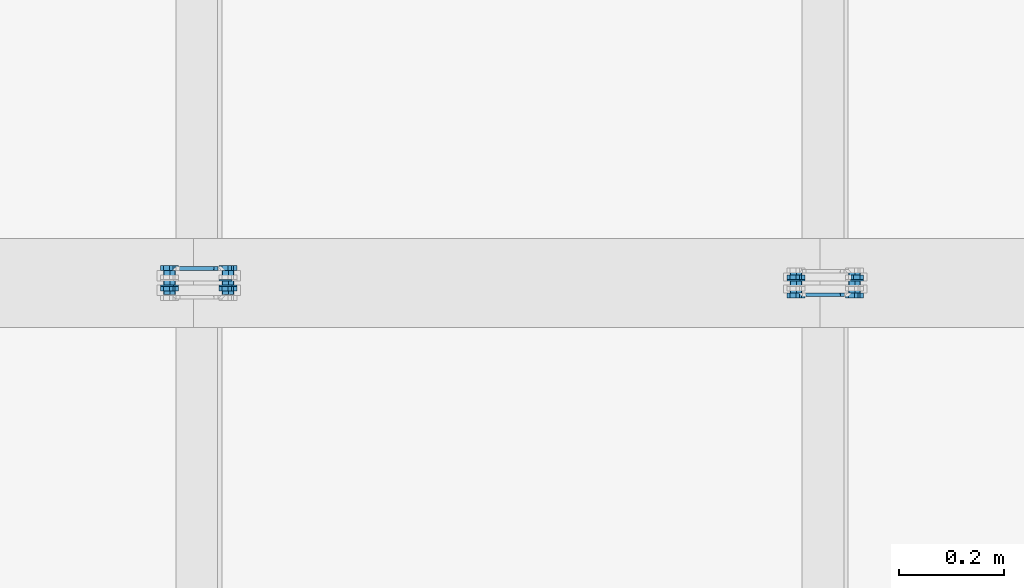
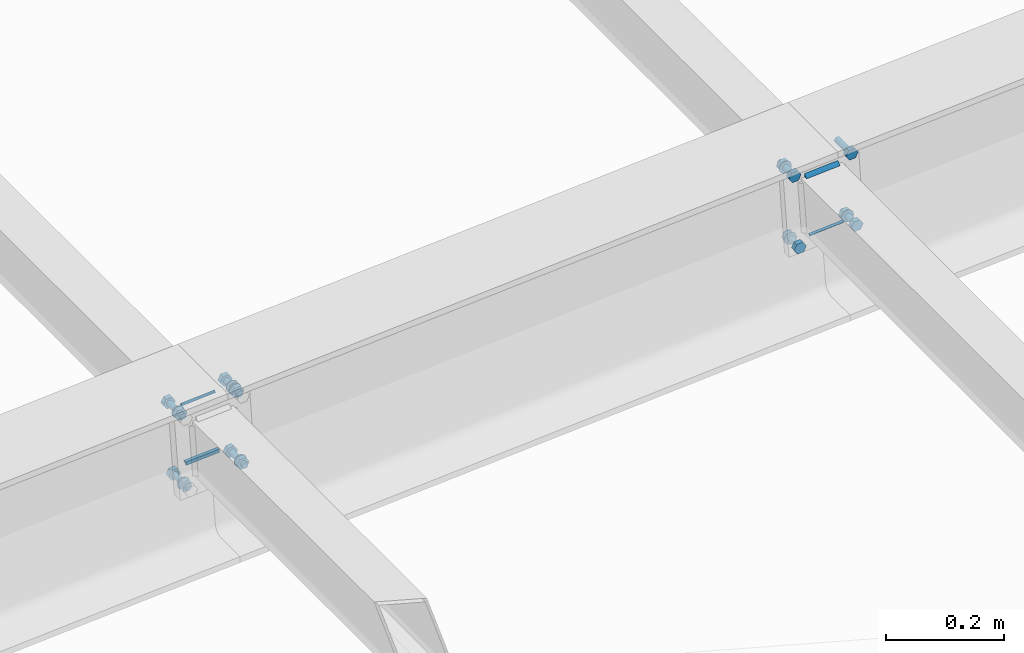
# One storey, part 39 of 72: 31 mechanical fasteners, 8 fasteners.
"""IFC4 building model written with IfcOpenShell, lengths in metres."""

from ifc_helpers import new_model, si_unit, frame, origin_with_axes, place, context, project, spatial, polyline, outline, extrude, type_object, element, save


model = new_model("IFC4")

# Units and contexts
model_context = context("Model", 3, precision=1e-05, world=origin_with_axes())
ifc_project = project(units=[si_unit("LENGTHUNIT", "METRE"), si_unit("AREAUNIT", "SQUARE_METRE"), si_unit("VOLUMEUNIT", "CUBIC_METRE"), si_unit("MASSUNIT", "GRAM", prefix="KILO"), si_unit("TIMEUNIT", "SECOND"), si_unit("PLANEANGLEUNIT", "RADIAN"), si_unit("SOLIDANGLEUNIT", "STERADIAN"), si_unit("THERMODYNAMICTEMPERATUREUNIT", "DEGREE_CELSIUS")], contexts=[model_context])

# Site, building, storey
placement_1 = place(None, origin_with_axes())
site = spatial("IfcSite", under=ifc_project, at=placement_1, Name="Italia", CompositionType="ELEMENT")
building = spatial("IfcBuilding", under=site, at=placement_1, Name="Pensilina", CompositionType="ELEMENT")
storey = spatial("IfcBuildingStorey", under=building, at=placement_1, Name="Storey 0", CompositionType="ELEMENT", Elevation=0.0)

# Mechanical fastener
mechanical_fastener_type_1 = type_object("IfcMechanicalFastenerType", Name="Collegamento 0302_0301", PredefinedType="BOLT")
placement_2 = place(placement_1, origin_with_axes())
mechanical_fastener_1_placement = place(placement_2, origin_with_axes())
element("IfcMechanicalFastener", 1, at=mechanical_fastener_1_placement, inside=storey, type_object=mechanical_fastener_type_1, Name="Collegamento 0302_0301", NominalDiameter=0.024, context=model_context, shape_type="SweptSolid", body=[
    extrude(outline(polyline([(0.0, 0.0, 0.0), (-0.000408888, -0.00310588, 0.0), (-0.00160789, -0.00600004, 0.0), (-0.00351477, -0.00848532, 0.0), (-0.00600004, -0.0103922, 0.0), (-0.00889421, -0.0115912, 0.0), (-0.0120001, -0.0120001, 0.0), (-0.015106, -0.0115912, 0.0), (-0.0180001, -0.0103922, 0.0), (-0.0204854, -0.00848532, 0.0), (-0.0223923, -0.00600004, 0.0), (-0.0235913, -0.00310588, 0.0), (-0.0240002, 0.0, 0.0), (-0.0235913, 0.00310588, 0.0), (-0.0223923, 0.00600004, 0.0), (-0.0204854, 0.00848532, 0.0), (-0.0180001, 0.0103922, 0.0), (-0.015106, 0.0115912, 0.0), (-0.0120001, 0.0120001, 0.0), (-0.00889421, 0.0115912, 0.0), (-0.00600004, 0.0103922, 0.0), (-0.00351477, 0.00848532, 0.0), (-0.00160789, 0.00600004, 0.0), (-0.000408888, 0.00310588, 0.0), (0.0, 0.0, 0.0)])), frame((2.28103, 5.286, 3.85843), z_axis=(0.0, -1.0, 0.0), x_axis=(1.0, 0.0, 0.0)), (0.0, 0.0, 1.0), 0.00200033),
])

# Fasteners
fastener_type_1 = type_object("IfcFastenerType", Name="Collegamento 0302_0303", PredefinedType="WELD")
fastener_1_placement = place(placement_2, origin_with_axes())
element("IfcFastener", 2, at=fastener_1_placement, inside=storey, type_object=fastener_type_1, Name="Collegamento 0302_0303", context=model_context, shape_type="SweptSolid", body=[
    extrude(outline(polyline([(0.0, 0.0, 0.0), (0.00717354, -0.00695801, 0.0), (0.0, -0.00695801, 0.0), (0.0, 0.0, 0.0)])), frame((2.18079, 5.30395, 3.84336), z_axis=(0.997731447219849, 0.0, 0.067319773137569), x_axis=(0.0, 1.0, 0.0)), (0.0, 0.0, 1.0), 0.0661001),
])
fastener_type_2 = type_object("IfcFastenerType", Name="Collegamento 0302_0303", PredefinedType="WELD")
fastener_2_placement = place(placement_2, origin_with_axes())
element("IfcFastener", 3, at=fastener_2_placement, inside=storey, type_object=fastener_type_2, Name="Collegamento 0302_0303", context=model_context, shape_type="SweptSolid", body=[
    extrude(outline(polyline([(0.0, 0.0, 0.0), (-0.00717354, 0.00695801, 0.0), (0.0, 0.00695801, 0.0), (0.0, 0.0, 0.0)])), frame((2.25575, 5.30395, 3.7143), z_axis=(-0.997731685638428, 0.0, -0.067316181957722), x_axis=(0.0, -1.0, 0.0)), (0.0, 0.0, 1.0), 0.0661001),
])
fastener_type_3 = type_object("IfcFastenerType", Name="Collegamento 0302_0303", PredefinedType="WELD")
fastener_3_placement = place(placement_2, origin_with_axes())
element("IfcFastener", 4, at=fastener_3_placement, inside=storey, type_object=fastener_type_3, Name="Collegamento 0302_0303", context=model_context, shape_type="SweptSolid", body=[
    extrude(outline(polyline([(0.0, 0.0, 0.0), (0.00717354, -0.00695801, 0.0), (0.0, -0.00695801, 0.0), (0.0, 0.0, 0.0)])), frame((2.18079, 5.30395, 3.84336), z_axis=(0.997731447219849, 0.0, 0.067319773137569), x_axis=(0.0, 1.0, 0.0)), (0.0, 0.0, 1.0), 0.0661001),
])
fastener_type_4 = type_object("IfcFastenerType", Name="Collegamento 0302_0303", PredefinedType="WELD")
fastener_4_placement = place(placement_2, origin_with_axes())
element("IfcFastener", 5, at=fastener_4_placement, inside=storey, type_object=fastener_type_4, Name="Collegamento 0302_0303", context=model_context, shape_type="SweptSolid", body=[
    extrude(outline(polyline([(0.0, 0.0, 0.0), (-0.00717354, 0.00695801, 0.0), (0.0, 0.00695801, 0.0), (0.0, 0.0, 0.0)])), frame((2.25575, 5.30395, 3.7143), z_axis=(-0.997731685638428, 0.0, -0.067316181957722), x_axis=(0.0, -1.0, 0.0)), (0.0, 0.0, 1.0), 0.0661001),
])

# Mechanical fasteners
mechanical_fastener_type_2 = type_object("IfcMechanicalFastenerType", Name="Collegamento 0302_0303", PredefinedType="BOLT")
mechanical_fastener_2_placement = place(placement_2, origin_with_axes())
element("IfcMechanicalFastener", 6, at=mechanical_fastener_2_placement, inside=storey, type_object=mechanical_fastener_type_2, Name="Collegamento 0302_0303", NominalDiameter=0.0119999, context=model_context, shape_type="SweptSolid", body=[
    extrude(outline(polyline([(0.0, 0.0, 0.0), (-0.0119729, 0.000807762, 0.0), (-0.0172596, 0.0115805, 0.0), (-0.0105736, 0.0215454, 0.0), (0.00139904, 0.0207374, 0.0), (0.00668597, 0.00996494, 0.0), (0.0, 0.0, 0.0)])), frame((2.27397, 5.304, 3.696), z_axis=(0.0, 1.0, 0.0), x_axis=(-1.0, 0.0, 0.0)), (0.0, 0.0, 1.0), 0.00960016),
])
mechanical_fastener_type_3 = type_object("IfcMechanicalFastenerType", Name="Collegamento 0302_0303", PredefinedType="BOLT")
mechanical_fastener_3_placement = place(placement_2, origin_with_axes())
element("IfcMechanicalFastener", 7, at=mechanical_fastener_3_placement, inside=storey, type_object=mechanical_fastener_type_3, Name="Collegamento 0302_0303", NominalDiameter=0.012, context=model_context, shape_type="SweptSolid", body=[
    extrude(outline(polyline([(0.0, 0.0, 0.0), (-0.000204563, -0.00155282, 0.0), (-0.000803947, -0.00300002, 0.0), (-0.00175738, -0.00424266, 0.0), (-0.00300002, -0.00519609, 0.0), (-0.00444722, -0.00579548, 0.0), (-0.00600004, -0.00600004, 0.0), (-0.00755286, -0.00579548, 0.0), (-0.00900006, -0.00519609, 0.0), (-0.0102427, -0.00424266, 0.0), (-0.0111961, -0.00300002, 0.0), (-0.0117955, -0.00155282, 0.0), (-0.0120001, 0.0, 0.0), (-0.0117955, 0.00155282, 0.0), (-0.0111961, 0.00300002, 0.0), (-0.0102427, 0.00424266, 0.0), (-0.00900006, 0.00519609, 0.0), (-0.00755286, 0.00579548, 0.0), (-0.00600004, 0.00600004, 0.0), (-0.00444722, 0.00579548, 0.0), (-0.00300002, 0.00519609, 0.0), (-0.00175738, 0.00424266, 0.0), (-0.000803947, 0.00300002, 0.0), (-0.000204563, 0.00155282, 0.0), (0.0, 0.0, 0.0)])), frame((2.27326, 5.258, 3.70677), z_axis=(0.0, 1.0, 0.0), x_axis=(-1.0, 0.0, 0.0)), (0.0, 0.0, 1.0), 0.046),
])
mechanical_fastener_type_4 = type_object("IfcMechanicalFastenerType", Name="Collegamento 0302_0303", PredefinedType="BOLT")
mechanical_fastener_4_placement = place(placement_2, origin_with_axes())
element("IfcMechanicalFastener", 8, at=mechanical_fastener_4_placement, inside=storey, type_object=mechanical_fastener_type_4, Name="Collegamento 0302_0303", NominalDiameter=0.0119999, context=model_context, shape_type="SweptSolid", body=[
    extrude(outline(polyline([(0.0, 0.0, 0.0), (-0.0119729, 0.000807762, 0.0), (-0.0172596, 0.0115805, 0.0), (-0.0105736, 0.0215454, 0.0), (0.00139904, 0.0207374, 0.0), (0.00668597, 0.00996494, 0.0), (0.0, 0.0, 0.0)])), frame((2.27397, 5.2644, 3.696), z_axis=(0.0, 1.0, 0.0), x_axis=(-1.0, 0.0, 0.0)), (0.0, 0.0, 1.0), 0.00959969),
])
mechanical_fastener_type_5 = type_object("IfcMechanicalFastenerType", Name="Collegamento 0302_0303", PredefinedType="BOLT")
mechanical_fastener_5_placement = place(placement_2, origin_with_axes())
element("IfcMechanicalFastener", 9, at=mechanical_fastener_5_placement, inside=storey, type_object=mechanical_fastener_type_5, Name="Collegamento 0302_0303", NominalDiameter=0.024, context=model_context, shape_type="SweptSolid", body=[
    extrude(outline(polyline([(0.0, 0.0, 0.0), (-0.000408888, -0.00310588, 0.0), (-0.00160789, -0.00600004, 0.0), (-0.00351477, -0.00848532, 0.0), (-0.00600004, -0.0103922, 0.0), (-0.00889421, -0.0115912, 0.0), (-0.0120001, -0.0120001, 0.0), (-0.015106, -0.0115912, 0.0), (-0.0180001, -0.0103922, 0.0), (-0.0204854, -0.00848532, 0.0), (-0.0223923, -0.00600004, 0.0), (-0.0235913, -0.00310588, 0.0), (-0.0240002, 0.0, 0.0), (-0.0235913, 0.00310588, 0.0), (-0.0223923, 0.00600004, 0.0), (-0.0204854, 0.00848532, 0.0), (-0.0180001, 0.0103922, 0.0), (-0.015106, 0.0115912, 0.0), (-0.0120001, 0.0120001, 0.0), (-0.00889421, 0.0115912, 0.0), (-0.00600004, 0.0103922, 0.0), (-0.00351477, 0.00848532, 0.0), (-0.00160789, 0.00600004, 0.0), (-0.000408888, 0.00310588, 0.0), (0.0, 0.0, 0.0)])), frame((2.26726, 5.274, 3.70677), z_axis=(0.0, 1.0, 0.0), x_axis=(-1.0, 0.0, 0.0)), (0.0, 0.0, 1.0), 0.00200033),
])
mechanical_fastener_type_6 = type_object("IfcMechanicalFastenerType", Name="Collegamento 0302_0303", PredefinedType="BOLT")
mechanical_fastener_6_placement = place(placement_2, origin_with_axes())
element("IfcMechanicalFastener", 10, at=mechanical_fastener_6_placement, inside=storey, type_object=mechanical_fastener_type_6, Name="Collegamento 0302_0303", NominalDiameter=0.0119999, context=model_context, shape_type="SweptSolid", body=[
    extrude(outline(polyline([(0.0, 0.0, 0.0), (-0.0119727, 0.000808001, 0.0), (-0.0172596, 0.0115805, 0.0), (-0.0105736, 0.0215454, 0.0), (0.00139928, 0.0207376, 0.0), (0.00668597, 0.00996494, 0.0), (0.0, 0.0, 0.0)])), frame((2.16223, 5.304, 3.68846), z_axis=(0.0, 1.0, 0.0), x_axis=(-1.0, 0.0, 0.0)), (0.0, 0.0, 1.0), 0.00960016),
])
mechanical_fastener_type_7 = type_object("IfcMechanicalFastenerType", Name="Collegamento 0302_0303", PredefinedType="BOLT")
mechanical_fastener_7_placement = place(placement_2, origin_with_axes())
element("IfcMechanicalFastener", 11, at=mechanical_fastener_7_placement, inside=storey, type_object=mechanical_fastener_type_7, Name="Collegamento 0302_0303", NominalDiameter=0.012, context=model_context, shape_type="SweptSolid", body=[
    extrude(outline(polyline([(0.0, 0.0, 0.0), (-0.000204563, -0.00155282, 0.0), (-0.000803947, -0.00300002, 0.0), (-0.00175738, -0.00424266, 0.0), (-0.00300002, -0.00519609, 0.0), (-0.00444722, -0.00579548, 0.0), (-0.00600004, -0.00600004, 0.0), (-0.00755286, -0.00579548, 0.0), (-0.00900006, -0.00519609, 0.0), (-0.0102427, -0.00424266, 0.0), (-0.0111961, -0.00300002, 0.0), (-0.0117955, -0.00155282, 0.0), (-0.0120001, 0.0, 0.0), (-0.0117955, 0.00155282, 0.0), (-0.0111961, 0.00300002, 0.0), (-0.0102427, 0.00424266, 0.0), (-0.00900006, 0.00519609, 0.0), (-0.00755286, 0.00579548, 0.0), (-0.00600004, 0.00600004, 0.0), (-0.00444722, 0.00579548, 0.0), (-0.00300002, 0.00519609, 0.0), (-0.00175738, 0.00424266, 0.0), (-0.000803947, 0.00300002, 0.0), (-0.000204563, 0.00155282, 0.0), (0.0, 0.0, 0.0)])), frame((2.16151, 5.258, 3.69923), z_axis=(0.0, 1.0, 0.0), x_axis=(-1.0, 0.0, 0.0)), (0.0, 0.0, 1.0), 0.046),
])
mechanical_fastener_type_8 = type_object("IfcMechanicalFastenerType", Name="Collegamento 0302_0303", PredefinedType="BOLT")
mechanical_fastener_8_placement = place(placement_2, origin_with_axes())
element("IfcMechanicalFastener", 12, at=mechanical_fastener_8_placement, inside=storey, type_object=mechanical_fastener_type_8, Name="Collegamento 0302_0303", NominalDiameter=0.0119999, context=model_context, shape_type="SweptSolid", body=[
    extrude(outline(polyline([(0.0, 0.0, 0.0), (-0.0119727, 0.000808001, 0.0), (-0.0172596, 0.0115805, 0.0), (-0.0105736, 0.0215454, 0.0), (0.00139928, 0.0207376, 0.0), (0.00668597, 0.00996494, 0.0), (0.0, 0.0, 0.0)])), frame((2.16223, 5.2644, 3.68846), z_axis=(0.0, 1.0, 0.0), x_axis=(-1.0, 0.0, 0.0)), (0.0, 0.0, 1.0), 0.00959969),
])
mechanical_fastener_type_9 = type_object("IfcMechanicalFastenerType", Name="Collegamento 0302_0303", PredefinedType="BOLT")
mechanical_fastener_9_placement = place(placement_2, origin_with_axes())
element("IfcMechanicalFastener", 13, at=mechanical_fastener_9_placement, inside=storey, type_object=mechanical_fastener_type_9, Name="Collegamento 0302_0303", NominalDiameter=0.024, context=model_context, shape_type="SweptSolid", body=[
    extrude(outline(polyline([(0.0, 0.0, 0.0), (-0.000408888, -0.00310588, 0.0), (-0.00160789, -0.00600004, 0.0), (-0.00351477, -0.00848532, 0.0), (-0.00600004, -0.0103922, 0.0), (-0.00889421, -0.0115912, 0.0), (-0.0120001, -0.0120001, 0.0), (-0.015106, -0.0115912, 0.0), (-0.0180001, -0.0103922, 0.0), (-0.0204854, -0.00848532, 0.0), (-0.0223923, -0.00600004, 0.0), (-0.0235913, -0.00310588, 0.0), (-0.0240002, 0.0, 0.0), (-0.0235913, 0.00310588, 0.0), (-0.0223923, 0.00600004, 0.0), (-0.0204854, 0.00848532, 0.0), (-0.0180001, 0.0103922, 0.0), (-0.015106, 0.0115912, 0.0), (-0.0120001, 0.0120001, 0.0), (-0.00889421, 0.0115912, 0.0), (-0.00600004, 0.0103922, 0.0), (-0.00351477, 0.00848532, 0.0), (-0.00160789, 0.00600004, 0.0), (-0.000408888, 0.00310588, 0.0), (0.0, 0.0, 0.0)])), frame((2.15551, 5.274, 3.69923), z_axis=(0.0, 1.0, 0.0), x_axis=(-1.0, 0.0, 0.0)), (0.0, 0.0, 1.0), 0.00200033),
])
mechanical_fastener_type_10 = type_object("IfcMechanicalFastenerType", Name="Collegamento 0302_0303", PredefinedType="BOLT")
mechanical_fastener_10_placement = place(placement_2, origin_with_axes())
element("IfcMechanicalFastener", 14, at=mechanical_fastener_10_placement, inside=storey, type_object=mechanical_fastener_type_10, Name="Collegamento 0302_0303", NominalDiameter=0.0119999, context=model_context, shape_type="SweptSolid", body=[
    extrude(outline(polyline([(0.0, 0.0, 0.0), (-0.0119729, 0.000807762, 0.0), (-0.0172596, 0.0115805, 0.0), (-0.0105736, 0.0215454, 0.0), (0.00139904, 0.0207374, 0.0), (0.00668597, 0.00996494, 0.0), (0.0, 0.0, 0.0)])), frame((2.26374, 5.304, 3.84766), z_axis=(0.0, 1.0, 0.0), x_axis=(-1.0, 0.0, 0.0)), (0.0, 0.0, 1.0), 0.00960016),
])
mechanical_fastener_type_11 = type_object("IfcMechanicalFastenerType", Name="Collegamento 0302_0303", PredefinedType="BOLT")
mechanical_fastener_11_placement = place(placement_2, origin_with_axes())
element("IfcMechanicalFastener", 15, at=mechanical_fastener_11_placement, inside=storey, type_object=mechanical_fastener_type_11, Name="Collegamento 0302_0303", NominalDiameter=0.012, context=model_context, shape_type="SweptSolid", body=[
    extrude(outline(polyline([(0.0, 0.0, 0.0), (-0.000204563, -0.00155282, 0.0), (-0.000803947, -0.00300002, 0.0), (-0.00175738, -0.00424266, 0.0), (-0.00300002, -0.00519609, 0.0), (-0.00444722, -0.00579548, 0.0), (-0.00600004, -0.00600004, 0.0), (-0.00755286, -0.00579548, 0.0), (-0.00900006, -0.00519609, 0.0), (-0.0102427, -0.00424266, 0.0), (-0.0111961, -0.00300002, 0.0), (-0.0117955, -0.00155282, 0.0), (-0.0120001, 0.0, 0.0), (-0.0117955, 0.00155282, 0.0), (-0.0111961, 0.00300002, 0.0), (-0.0102427, 0.00424266, 0.0), (-0.00900006, 0.00519609, 0.0), (-0.00755286, 0.00579548, 0.0), (-0.00600004, 0.00600004, 0.0), (-0.00444722, 0.00579548, 0.0), (-0.00300002, 0.00519609, 0.0), (-0.00175738, 0.00424266, 0.0), (-0.000803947, 0.00300002, 0.0), (-0.000204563, 0.00155282, 0.0), (0.0, 0.0, 0.0)])), frame((2.26303, 5.258, 3.85843), z_axis=(0.0, 1.0, 0.0), x_axis=(-1.0, 0.0, 0.0)), (0.0, 0.0, 1.0), 0.046),
])
mechanical_fastener_type_12 = type_object("IfcMechanicalFastenerType", Name="Collegamento 0302_0303", PredefinedType="BOLT")
mechanical_fastener_12_placement = place(placement_2, origin_with_axes())
element("IfcMechanicalFastener", 16, at=mechanical_fastener_12_placement, inside=storey, type_object=mechanical_fastener_type_12, Name="Collegamento 0302_0303", NominalDiameter=0.0119999, context=model_context, shape_type="SweptSolid", body=[
    extrude(outline(polyline([(0.0, 0.0, 0.0), (-0.0119729, 0.000807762, 0.0), (-0.0172596, 0.0115805, 0.0), (-0.0105736, 0.0215454, 0.0), (0.00139904, 0.0207374, 0.0), (0.00668597, 0.00996494, 0.0), (0.0, 0.0, 0.0)])), frame((2.26374, 5.2644, 3.84766), z_axis=(0.0, 1.0, 0.0), x_axis=(-1.0, 0.0, 0.0)), (0.0, 0.0, 1.0), 0.00959969),
])
mechanical_fastener_type_13 = type_object("IfcMechanicalFastenerType", Name="Collegamento 0302_0303", PredefinedType="BOLT")
mechanical_fastener_13_placement = place(placement_2, origin_with_axes())
element("IfcMechanicalFastener", 17, at=mechanical_fastener_13_placement, inside=storey, type_object=mechanical_fastener_type_13, Name="Collegamento 0302_0303", NominalDiameter=0.024, context=model_context, shape_type="SweptSolid", body=[
    extrude(outline(polyline([(0.0, 0.0, 0.0), (-0.000408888, -0.00310588, 0.0), (-0.00160789, -0.00600004, 0.0), (-0.00351477, -0.00848532, 0.0), (-0.00600004, -0.0103922, 0.0), (-0.00889421, -0.0115912, 0.0), (-0.0120001, -0.0120001, 0.0), (-0.015106, -0.0115912, 0.0), (-0.0180001, -0.0103922, 0.0), (-0.0204854, -0.00848532, 0.0), (-0.0223923, -0.00600004, 0.0), (-0.0235913, -0.00310588, 0.0), (-0.0240002, 0.0, 0.0), (-0.0235913, 0.00310588, 0.0), (-0.0223923, 0.00600004, 0.0), (-0.0204854, 0.00848532, 0.0), (-0.0180001, 0.0103922, 0.0), (-0.015106, 0.0115912, 0.0), (-0.0120001, 0.0120001, 0.0), (-0.00889421, 0.0115912, 0.0), (-0.00600004, 0.0103922, 0.0), (-0.00351477, 0.00848532, 0.0), (-0.00160789, 0.00600004, 0.0), (-0.000408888, 0.00310588, 0.0), (0.0, 0.0, 0.0)])), frame((2.25703, 5.274, 3.85843), z_axis=(0.0, 1.0, 0.0), x_axis=(-1.0, 0.0, 0.0)), (0.0, 0.0, 1.0), 0.00200033),
])
mechanical_fastener_type_14 = type_object("IfcMechanicalFastenerType", Name="Collegamento 0302_0303", PredefinedType="BOLT")
mechanical_fastener_14_placement = place(placement_2, origin_with_axes())
element("IfcMechanicalFastener", 18, at=mechanical_fastener_14_placement, inside=storey, type_object=mechanical_fastener_type_14, Name="Collegamento 0302_0303", NominalDiameter=0.0119999, context=model_context, shape_type="SweptSolid", body=[
    extrude(outline(polyline([(0.0, 0.0, 0.0), (-0.0119727, 0.000808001, 0.0), (-0.0172596, 0.0115805, 0.0), (-0.0105736, 0.0215454, 0.0), (0.00139928, 0.0207376, 0.0), (0.00668597, 0.00996494, 0.0), (0.0, 0.0, 0.0)])), frame((2.15199, 5.304, 3.84012), z_axis=(0.0, 1.0, 0.0), x_axis=(-1.0, 0.0, 0.0)), (0.0, 0.0, 1.0), 0.00960016),
])
mechanical_fastener_type_15 = type_object("IfcMechanicalFastenerType", Name="Collegamento 0302_0303", PredefinedType="BOLT")
mechanical_fastener_15_placement = place(placement_2, origin_with_axes())
element("IfcMechanicalFastener", 19, at=mechanical_fastener_15_placement, inside=storey, type_object=mechanical_fastener_type_15, Name="Collegamento 0302_0303", NominalDiameter=0.012, context=model_context, shape_type="SweptSolid", body=[
    extrude(outline(polyline([(0.0, 0.0, 0.0), (-0.000204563, -0.00155282, 0.0), (-0.000803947, -0.00300002, 0.0), (-0.00175738, -0.00424266, 0.0), (-0.00300002, -0.00519609, 0.0), (-0.00444722, -0.00579548, 0.0), (-0.00600004, -0.00600004, 0.0), (-0.00755286, -0.00579548, 0.0), (-0.00900006, -0.00519609, 0.0), (-0.0102427, -0.00424266, 0.0), (-0.0111961, -0.00300002, 0.0), (-0.0117955, -0.00155282, 0.0), (-0.0120001, 0.0, 0.0), (-0.0117955, 0.00155282, 0.0), (-0.0111961, 0.00300002, 0.0), (-0.0102427, 0.00424266, 0.0), (-0.00900006, 0.00519609, 0.0), (-0.00755286, 0.00579548, 0.0), (-0.00600004, 0.00600004, 0.0), (-0.00444722, 0.00579548, 0.0), (-0.00300002, 0.00519609, 0.0), (-0.00175738, 0.00424266, 0.0), (-0.000803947, 0.00300002, 0.0), (-0.000204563, 0.00155282, 0.0), (0.0, 0.0, 0.0)])), frame((2.15128, 5.258, 3.85089), z_axis=(0.0, 1.0, 0.0), x_axis=(-1.0, 0.0, 0.0)), (0.0, 0.0, 1.0), 0.046),
])
mechanical_fastener_type_16 = type_object("IfcMechanicalFastenerType", Name="Collegamento 0302_0303", PredefinedType="BOLT")
mechanical_fastener_16_placement = place(placement_2, origin_with_axes())
element("IfcMechanicalFastener", 20, at=mechanical_fastener_16_placement, inside=storey, type_object=mechanical_fastener_type_16, Name="Collegamento 0302_0303", NominalDiameter=0.0119999, context=model_context, shape_type="SweptSolid", body=[
    extrude(outline(polyline([(0.0, 0.0, 0.0), (-0.0119727, 0.000808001, 0.0), (-0.0172596, 0.0115805, 0.0), (-0.0105736, 0.0215454, 0.0), (0.00139928, 0.0207376, 0.0), (0.00668597, 0.00996494, 0.0), (0.0, 0.0, 0.0)])), frame((2.15199, 5.2644, 3.84012), z_axis=(0.0, 1.0, 0.0), x_axis=(-1.0, 0.0, 0.0)), (0.0, 0.0, 1.0), 0.00959969),
])
mechanical_fastener_type_17 = type_object("IfcMechanicalFastenerType", Name="Collegamento 0302_0303", PredefinedType="BOLT")
mechanical_fastener_17_placement = place(placement_2, origin_with_axes())
element("IfcMechanicalFastener", 21, at=mechanical_fastener_17_placement, inside=storey, type_object=mechanical_fastener_type_17, Name="Collegamento 0302_0303", NominalDiameter=0.024, context=model_context, shape_type="SweptSolid", body=[
    extrude(outline(polyline([(0.0, 0.0, 0.0), (-0.000408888, -0.00310588, 0.0), (-0.00160789, -0.00600004, 0.0), (-0.00351477, -0.00848532, 0.0), (-0.00600004, -0.0103922, 0.0), (-0.00889421, -0.0115912, 0.0), (-0.0120001, -0.0120001, 0.0), (-0.015106, -0.0115912, 0.0), (-0.0180001, -0.0103922, 0.0), (-0.0204854, -0.00848532, 0.0), (-0.0223923, -0.00600004, 0.0), (-0.0235913, -0.00310588, 0.0), (-0.0240002, 0.0, 0.0), (-0.0235913, 0.00310588, 0.0), (-0.0223923, 0.00600004, 0.0), (-0.0204854, 0.00848532, 0.0), (-0.0180001, 0.0103922, 0.0), (-0.015106, 0.0115912, 0.0), (-0.0120001, 0.0120001, 0.0), (-0.00889421, 0.0115912, 0.0), (-0.00600004, 0.0103922, 0.0), (-0.00351477, 0.00848532, 0.0), (-0.00160789, 0.00600004, 0.0), (-0.000408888, 0.00310588, 0.0), (0.0, 0.0, 0.0)])), frame((2.14528, 5.274, 3.85089), z_axis=(0.0, 1.0, 0.0), x_axis=(-1.0, 0.0, 0.0)), (0.0, 0.0, 1.0), 0.00200033),
])

# Fasteners
fastener_type_5 = type_object("IfcFastenerType", Name="Collegamento 0402_0401", PredefinedType="WELD")
fastener_5_placement = place(placement_2, origin_with_axes())
element("IfcFastener", 22, at=fastener_5_placement, inside=storey, type_object=fastener_type_5, Name="Collegamento 0402_0401", context=model_context, shape_type="SweptSolid", body=[
    extrude(outline(polyline([(0.0, 0.0, 0.0), (0.00717354, -0.00695825, 0.0), (0.0, -0.00695825, 0.0), (0.0, 0.0, 0.0)])), frame((3.44387, 5.26105, 3.93006), z_axis=(-0.997731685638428, 0.0, -0.067316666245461), x_axis=(0.0, -1.0, 0.0)), (0.0, 0.0, 1.0), 0.0660996),
])
fastener_type_6 = type_object("IfcFastenerType", Name="Collegamento 0402_0401", PredefinedType="WELD")
fastener_6_placement = place(placement_2, origin_with_axes())
element("IfcFastener", 23, at=fastener_6_placement, inside=storey, type_object=fastener_type_6, Name="Collegamento 0402_0401", context=model_context, shape_type="SweptSolid", body=[
    extrude(outline(polyline([(0.0, 0.0, 0.0), (-0.00717354, 0.00695801, 0.0), (0.0, 0.00695801, 0.0), (0.0, 0.0, 0.0)])), frame((3.38693, 5.26105, 3.79209), z_axis=(0.997731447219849, 0.0, 0.067320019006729), x_axis=(0.0, 1.0, 0.0)), (0.0, 0.0, 1.0), 0.0660999),
])
fastener_type_7 = type_object("IfcFastenerType", Name="Collegamento 0402_0401", PredefinedType="WELD")
fastener_7_placement = place(placement_2, origin_with_axes())
element("IfcFastener", 24, at=fastener_7_placement, inside=storey, type_object=fastener_type_7, Name="Collegamento 0402_0401", context=model_context, shape_type="SweptSolid", body=[
    extrude(outline(polyline([(0.0, 0.0, 0.0), (0.00717354, -0.00695825, 0.0), (0.0, -0.00695825, 0.0), (0.0, 0.0, 0.0)])), frame((3.44387, 5.26105, 3.93006), z_axis=(-0.997731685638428, 0.0, -0.067316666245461), x_axis=(0.0, -1.0, 0.0)), (0.0, 0.0, 1.0), 0.0660996),
])
fastener_type_8 = type_object("IfcFastenerType", Name="Collegamento 0402_0401", PredefinedType="WELD")
fastener_8_placement = place(placement_2, origin_with_axes())
element("IfcFastener", 25, at=fastener_8_placement, inside=storey, type_object=fastener_type_8, Name="Collegamento 0402_0401", context=model_context, shape_type="SweptSolid", body=[
    extrude(outline(polyline([(0.0, 0.0, 0.0), (-0.00717354, 0.00695801, 0.0), (0.0, 0.00695801, 0.0), (0.0, 0.0, 0.0)])), frame((3.38693, 5.26105, 3.79209), z_axis=(0.997731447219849, 0.0, 0.067320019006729), x_axis=(0.0, 1.0, 0.0)), (0.0, 0.0, 1.0), 0.0660999),
])

# Mechanical fasteners
mechanical_fastener_type_18 = type_object("IfcMechanicalFastenerType", Name="Collegamento 0402_0401", PredefinedType="BOLT")
mechanical_fastener_18_placement = place(placement_2, origin_with_axes())
element("IfcMechanicalFastener", 26, at=mechanical_fastener_18_placement, inside=storey, type_object=mechanical_fastener_type_18, Name="Collegamento 0402_0401", NominalDiameter=0.0119998, context=model_context, shape_type="SweptSolid", body=[
    extrude(outline(polyline([(0.0, 0.0, 0.0), (-0.0119729, -0.000808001, 0.0), (-0.0186589, 0.00915694, 0.0), (-0.0133719, 0.0199296, 0.0), (-0.00139928, 0.0207374, 0.0), (0.00528669, 0.0107725, 0.0), (0.0, 0.0, 0.0)])), frame((3.37133, 5.261, 3.77151), z_axis=(0.0, -1.0, 0.0), x_axis=(1.0, 0.0, 0.0)), (0.0, 0.0, 1.0), 0.00960016),
])
mechanical_fastener_type_19 = type_object("IfcMechanicalFastenerType", Name="Collegamento 0402_0401", PredefinedType="BOLT")
mechanical_fastener_19_placement = place(placement_2, origin_with_axes())
element("IfcMechanicalFastener", 27, at=mechanical_fastener_19_placement, inside=storey, type_object=mechanical_fastener_type_19, Name="Collegamento 0402_0401", NominalDiameter=0.012, context=model_context, shape_type="SweptSolid", body=[
    extrude(outline(polyline([(0.0, 0.0, 0.0), (-0.000204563, -0.00155282, 0.0), (-0.000803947, -0.00300002, 0.0), (-0.00175738, -0.00424266, 0.0), (-0.00300002, -0.00519609, 0.0), (-0.00444722, -0.00579548, 0.0), (-0.00600004, -0.00600004, 0.0), (-0.00755286, -0.00579548, 0.0), (-0.00900006, -0.00519609, 0.0), (-0.0102427, -0.00424266, 0.0), (-0.0111961, -0.00300002, 0.0), (-0.0117955, -0.00155282, 0.0), (-0.0120001, 0.0, 0.0), (-0.0117955, 0.00155282, 0.0), (-0.0111961, 0.00300002, 0.0), (-0.0102427, 0.00424266, 0.0), (-0.00900006, 0.00519609, 0.0), (-0.00755286, 0.00579548, 0.0), (-0.00600004, 0.00600004, 0.0), (-0.00444722, 0.00579548, 0.0), (-0.00300002, 0.00519609, 0.0), (-0.00175738, 0.00424266, 0.0), (-0.000803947, 0.00300002, 0.0), (-0.000204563, 0.00155282, 0.0), (0.0, 0.0, 0.0)])), frame((3.37064, 5.302, 3.78148), z_axis=(0.0, -1.0, 0.0), x_axis=(1.0, 0.0, 0.0)), (0.0, 0.0, 1.0), 0.0409999),
])
mechanical_fastener_type_20 = type_object("IfcMechanicalFastenerType", Name="Collegamento 0402_0401", PredefinedType="BOLT")
mechanical_fastener_20_placement = place(placement_2, origin_with_axes())
element("IfcMechanicalFastener", 28, at=mechanical_fastener_20_placement, inside=storey, type_object=mechanical_fastener_type_20, Name="Collegamento 0402_0401", NominalDiameter=0.0119998, context=model_context, shape_type="SweptSolid", body=[
    extrude(outline(polyline([(0.0, 0.0, 0.0), (-0.0119729, -0.000808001, 0.0), (-0.0186589, 0.00915694, 0.0), (-0.0133719, 0.0199296, 0.0), (-0.00139928, 0.0207374, 0.0), (0.00528669, 0.0107725, 0.0), (0.0, 0.0, 0.0)])), frame((3.37133, 5.2956, 3.77151), z_axis=(0.0, -1.0, 0.0), x_axis=(1.0, 0.0, 0.0)), (0.0, 0.0, 1.0), 0.00959969),
])
mechanical_fastener_type_21 = type_object("IfcMechanicalFastenerType", Name="Collegamento 0402_0401", PredefinedType="BOLT")
mechanical_fastener_21_placement = place(placement_2, origin_with_axes())
element("IfcMechanicalFastener", 29, at=mechanical_fastener_21_placement, inside=storey, type_object=mechanical_fastener_type_21, Name="Collegamento 0402_0401", NominalDiameter=0.024, context=model_context, shape_type="SweptSolid", body=[
    extrude(outline(polyline([(0.0, 0.0, 0.0), (-0.000408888, -0.00310588, 0.0), (-0.00160789, -0.00600004, 0.0), (-0.00351477, -0.00848532, 0.0), (-0.00600004, -0.0103922, 0.0), (-0.00889421, -0.0115912, 0.0), (-0.0120001, -0.0120001, 0.0), (-0.015106, -0.0115912, 0.0), (-0.0180001, -0.0103922, 0.0), (-0.0204854, -0.00848532, 0.0), (-0.0223923, -0.00600004, 0.0), (-0.0235913, -0.00310588, 0.0), (-0.0240002, 0.0, 0.0), (-0.0235913, 0.00310588, 0.0), (-0.0223923, 0.00600004, 0.0), (-0.0204854, 0.00848532, 0.0), (-0.0180001, 0.0103922, 0.0), (-0.015106, 0.0115912, 0.0), (-0.0120001, 0.0120001, 0.0), (-0.00889421, 0.0115912, 0.0), (-0.00600004, 0.0103922, 0.0), (-0.00351477, 0.00848532, 0.0), (-0.00160789, 0.00600004, 0.0), (-0.000408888, 0.00310588, 0.0), (0.0, 0.0, 0.0)])), frame((3.37664, 5.286, 3.78148), z_axis=(0.0, -1.0, 0.0), x_axis=(1.0, 0.0, 0.0)), (0.0, 0.0, 1.0), 0.00200033),
])
mechanical_fastener_type_22 = type_object("IfcMechanicalFastenerType", Name="Collegamento 0402_0401", PredefinedType="BOLT")
mechanical_fastener_22_placement = place(placement_2, origin_with_axes())
element("IfcMechanicalFastener", 30, at=mechanical_fastener_22_placement, inside=storey, type_object=mechanical_fastener_type_22, Name="Collegamento 0402_0401", NominalDiameter=0.0119998, context=model_context, shape_type="SweptSolid", body=[
    extrude(outline(polyline([(0.0, 0.0, 0.0), (-0.0119727, -0.000807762, 0.0), (-0.0186586, 0.00915718, 0.0), (-0.0133719, 0.0199296, 0.0), (-0.00139904, 0.0207376, 0.0), (0.00528693, 0.0107727, 0.0), (0.0, 0.0, 0.0)])), frame((3.48307, 5.261, 3.77905), z_axis=(0.0, -1.0, 0.0), x_axis=(1.0, 0.0, 0.0)), (0.0, 0.0, 1.0), 0.00960016),
])
mechanical_fastener_type_23 = type_object("IfcMechanicalFastenerType", Name="Collegamento 0402_0401", PredefinedType="BOLT")
mechanical_fastener_23_placement = place(placement_2, origin_with_axes())
element("IfcMechanicalFastener", 31, at=mechanical_fastener_23_placement, inside=storey, type_object=mechanical_fastener_type_23, Name="Collegamento 0402_0401", NominalDiameter=0.012, context=model_context, shape_type="SweptSolid", body=[
    extrude(outline(polyline([(0.0, 0.0, 0.0), (-0.000204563, -0.00155282, 0.0), (-0.000803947, -0.00300002, 0.0), (-0.00175738, -0.00424266, 0.0), (-0.00300002, -0.00519609, 0.0), (-0.00444722, -0.00579548, 0.0), (-0.00600004, -0.00600004, 0.0), (-0.00755286, -0.00579548, 0.0), (-0.00900006, -0.00519609, 0.0), (-0.0102427, -0.00424266, 0.0), (-0.0111961, -0.00300002, 0.0), (-0.0117955, -0.00155282, 0.0), (-0.0120001, 0.0, 0.0), (-0.0117955, 0.00155282, 0.0), (-0.0111961, 0.00300002, 0.0), (-0.0102427, 0.00424266, 0.0), (-0.00900006, 0.00519609, 0.0), (-0.00755286, 0.00579548, 0.0), (-0.00600004, 0.00600004, 0.0), (-0.00444722, 0.00579548, 0.0), (-0.00300002, 0.00519609, 0.0), (-0.00175738, 0.00424266, 0.0), (-0.000803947, 0.00300002, 0.0), (-0.000204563, 0.00155282, 0.0), (0.0, 0.0, 0.0)])), frame((3.48239, 5.302, 3.78902), z_axis=(0.0, -1.0, 0.0), x_axis=(1.0, 0.0, 0.0)), (0.0, 0.0, 1.0), 0.0409999),
])
mechanical_fastener_type_24 = type_object("IfcMechanicalFastenerType", Name="Collegamento 0402_0401", PredefinedType="BOLT")
mechanical_fastener_24_placement = place(placement_2, origin_with_axes())
element("IfcMechanicalFastener", 32, at=mechanical_fastener_24_placement, inside=storey, type_object=mechanical_fastener_type_24, Name="Collegamento 0402_0401", NominalDiameter=0.0119998, context=model_context, shape_type="SweptSolid", body=[
    extrude(outline(polyline([(0.0, 0.0, 0.0), (-0.0119727, -0.000807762, 0.0), (-0.0186586, 0.00915718, 0.0), (-0.0133719, 0.0199296, 0.0), (-0.00139904, 0.0207376, 0.0), (0.00528693, 0.0107727, 0.0), (0.0, 0.0, 0.0)])), frame((3.48307, 5.2956, 3.77905), z_axis=(0.0, -1.0, 0.0), x_axis=(1.0, 0.0, 0.0)), (0.0, 0.0, 1.0), 0.00959969),
])
mechanical_fastener_type_25 = type_object("IfcMechanicalFastenerType", Name="Collegamento 0402_0401", PredefinedType="BOLT")
mechanical_fastener_25_placement = place(placement_2, origin_with_axes())
element("IfcMechanicalFastener", 33, at=mechanical_fastener_25_placement, inside=storey, type_object=mechanical_fastener_type_25, Name="Collegamento 0402_0401", NominalDiameter=0.024, context=model_context, shape_type="SweptSolid", body=[
    extrude(outline(polyline([(0.0, 0.0, 0.0), (-0.000408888, -0.00310588, 0.0), (-0.00160789, -0.00600004, 0.0), (-0.00351477, -0.00848532, 0.0), (-0.00600004, -0.0103922, 0.0), (-0.00889421, -0.0115912, 0.0), (-0.0120001, -0.0120001, 0.0), (-0.015106, -0.0115912, 0.0), (-0.0180001, -0.0103922, 0.0), (-0.0204854, -0.00848532, 0.0), (-0.0223923, -0.00600004, 0.0), (-0.0235913, -0.00310588, 0.0), (-0.0240002, 0.0, 0.0), (-0.0235913, 0.00310588, 0.0), (-0.0223923, 0.00600004, 0.0), (-0.0204854, 0.00848532, 0.0), (-0.0180001, 0.0103922, 0.0), (-0.015106, 0.0115912, 0.0), (-0.0120001, 0.0120001, 0.0), (-0.00889421, 0.0115912, 0.0), (-0.00600004, 0.0103922, 0.0), (-0.00351477, 0.00848532, 0.0), (-0.00160789, 0.00600004, 0.0), (-0.000408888, 0.00310588, 0.0), (0.0, 0.0, 0.0)])), frame((3.48839, 5.286, 3.78902), z_axis=(0.0, -1.0, 0.0), x_axis=(1.0, 0.0, 0.0)), (0.0, 0.0, 1.0), 0.00200033),
])
mechanical_fastener_type_26 = type_object("IfcMechanicalFastenerType", Name="Collegamento 0402_0401", PredefinedType="BOLT")
mechanical_fastener_26_placement = place(placement_2, origin_with_axes())
element("IfcMechanicalFastener", 34, at=mechanical_fastener_26_placement, inside=storey, type_object=mechanical_fastener_type_26, Name="Collegamento 0402_0401", NominalDiameter=0.0119998, context=model_context, shape_type="SweptSolid", body=[
    extrude(outline(polyline([(0.0, 0.0, 0.0), (-0.0119729, -0.000808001, 0.0), (-0.0186589, 0.00915694, 0.0), (-0.0133719, 0.0199296, 0.0), (-0.00139928, 0.0207374, 0.0), (0.00528669, 0.0107725, 0.0), (0.0, 0.0, 0.0)])), frame((3.3611, 5.261, 3.92317), z_axis=(0.0, -1.0, 0.0), x_axis=(1.0, 0.0, 0.0)), (0.0, 0.0, 1.0), 0.00960016),
])
mechanical_fastener_type_27 = type_object("IfcMechanicalFastenerType", Name="Collegamento 0402_0401", PredefinedType="BOLT")
mechanical_fastener_27_placement = place(placement_2, origin_with_axes())
element("IfcMechanicalFastener", 35, at=mechanical_fastener_27_placement, inside=storey, type_object=mechanical_fastener_type_27, Name="Collegamento 0402_0401", NominalDiameter=0.012, context=model_context, shape_type="SweptSolid", body=[
    extrude(outline(polyline([(0.0, 0.0, 0.0), (-0.000204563, -0.00155282, 0.0), (-0.000803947, -0.00300002, 0.0), (-0.00175738, -0.00424266, 0.0), (-0.00300002, -0.00519609, 0.0), (-0.00444722, -0.00579548, 0.0), (-0.00600004, -0.00600004, 0.0), (-0.00755286, -0.00579548, 0.0), (-0.00900006, -0.00519609, 0.0), (-0.0102427, -0.00424266, 0.0), (-0.0111961, -0.00300002, 0.0), (-0.0117955, -0.00155282, 0.0), (-0.0120001, 0.0, 0.0), (-0.0117955, 0.00155282, 0.0), (-0.0111961, 0.00300002, 0.0), (-0.0102427, 0.00424266, 0.0), (-0.00900006, 0.00519609, 0.0), (-0.00755286, 0.00579548, 0.0), (-0.00600004, 0.00600004, 0.0), (-0.00444722, 0.00579548, 0.0), (-0.00300002, 0.00519609, 0.0), (-0.00175738, 0.00424266, 0.0), (-0.000803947, 0.00300002, 0.0), (-0.000204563, 0.00155282, 0.0), (0.0, 0.0, 0.0)])), frame((3.36041, 5.302, 3.93313), z_axis=(0.0, -1.0, 0.0), x_axis=(1.0, 0.0, 0.0)), (0.0, 0.0, 1.0), 0.0409999),
])
mechanical_fastener_type_28 = type_object("IfcMechanicalFastenerType", Name="Collegamento 0402_0401", PredefinedType="BOLT")
mechanical_fastener_28_placement = place(placement_2, origin_with_axes())
element("IfcMechanicalFastener", 36, at=mechanical_fastener_28_placement, inside=storey, type_object=mechanical_fastener_type_28, Name="Collegamento 0402_0401", NominalDiameter=0.0119998, context=model_context, shape_type="SweptSolid", body=[
    extrude(outline(polyline([(0.0, 0.0, 0.0), (-0.0119729, -0.000808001, 0.0), (-0.0186589, 0.00915694, 0.0), (-0.0133719, 0.0199296, 0.0), (-0.00139928, 0.0207374, 0.0), (0.00528669, 0.0107725, 0.0), (0.0, 0.0, 0.0)])), frame((3.3611, 5.2956, 3.92317), z_axis=(0.0, -1.0, 0.0), x_axis=(1.0, 0.0, 0.0)), (0.0, 0.0, 1.0), 0.00959969),
])
mechanical_fastener_type_29 = type_object("IfcMechanicalFastenerType", Name="Collegamento 0402_0401", PredefinedType="BOLT")
mechanical_fastener_29_placement = place(placement_2, origin_with_axes())
element("IfcMechanicalFastener", 37, at=mechanical_fastener_29_placement, inside=storey, type_object=mechanical_fastener_type_29, Name="Collegamento 0402_0401", NominalDiameter=0.024, context=model_context, shape_type="SweptSolid", body=[
    extrude(outline(polyline([(0.0, 0.0, 0.0), (-0.000408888, -0.00310588, 0.0), (-0.00160789, -0.00600004, 0.0), (-0.00351477, -0.00848532, 0.0), (-0.00600004, -0.0103922, 0.0), (-0.00889421, -0.0115912, 0.0), (-0.0120001, -0.0120001, 0.0), (-0.015106, -0.0115912, 0.0), (-0.0180001, -0.0103922, 0.0), (-0.0204854, -0.00848532, 0.0), (-0.0223923, -0.00600004, 0.0), (-0.0235913, -0.00310588, 0.0), (-0.0240002, 0.0, 0.0), (-0.0235913, 0.00310588, 0.0), (-0.0223923, 0.00600004, 0.0), (-0.0204854, 0.00848532, 0.0), (-0.0180001, 0.0103922, 0.0), (-0.015106, 0.0115912, 0.0), (-0.0120001, 0.0120001, 0.0), (-0.00889421, 0.0115912, 0.0), (-0.00600004, 0.0103922, 0.0), (-0.00351477, 0.00848532, 0.0), (-0.00160789, 0.00600004, 0.0), (-0.000408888, 0.00310588, 0.0), (0.0, 0.0, 0.0)])), frame((3.36641, 5.286, 3.93313), z_axis=(0.0, -1.0, 0.0), x_axis=(1.0, 0.0, 0.0)), (0.0, 0.0, 1.0), 0.00200033),
])
mechanical_fastener_type_30 = type_object("IfcMechanicalFastenerType", Name="Collegamento 0402_0401", PredefinedType="BOLT")
mechanical_fastener_30_placement = place(placement_2, origin_with_axes())
element("IfcMechanicalFastener", 38, at=mechanical_fastener_30_placement, inside=storey, type_object=mechanical_fastener_type_30, Name="Collegamento 0402_0401", NominalDiameter=0.0119998, context=model_context, shape_type="SweptSolid", body=[
    extrude(outline(polyline([(0.0, 0.0, 0.0), (-0.0119727, -0.000808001, 0.0), (-0.0186586, 0.00915694, 0.0), (-0.0133719, 0.0199294, 0.0), (-0.00139904, 0.0207374, 0.0), (0.00528693, 0.0107725, 0.0), (0.0, 0.0, 0.0)])), frame((3.47284, 5.261, 3.93071), z_axis=(0.0, -1.0, 0.0), x_axis=(1.0, 0.0, 0.0)), (0.0, 0.0, 1.0), 0.00960016),
])
mechanical_fastener_type_31 = type_object("IfcMechanicalFastenerType", Name="Collegamento 0402_0401", PredefinedType="BOLT")
mechanical_fastener_31_placement = place(placement_2, origin_with_axes())
element("IfcMechanicalFastener", 39, at=mechanical_fastener_31_placement, inside=storey, type_object=mechanical_fastener_type_31, Name="Collegamento 0402_0401", NominalDiameter=0.012, context=model_context, shape_type="SweptSolid", body=[
    extrude(outline(polyline([(0.0, 0.0, 0.0), (-0.000204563, -0.00155282, 0.0), (-0.000803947, -0.00300002, 0.0), (-0.00175738, -0.00424266, 0.0), (-0.00300002, -0.00519609, 0.0), (-0.00444722, -0.00579548, 0.0), (-0.00600004, -0.00600004, 0.0), (-0.00755286, -0.00579548, 0.0), (-0.00900006, -0.00519609, 0.0), (-0.0102427, -0.00424266, 0.0), (-0.0111961, -0.00300002, 0.0), (-0.0117955, -0.00155282, 0.0), (-0.0120001, 0.0, 0.0), (-0.0117955, 0.00155282, 0.0), (-0.0111961, 0.00300002, 0.0), (-0.0102427, 0.00424266, 0.0), (-0.00900006, 0.00519609, 0.0), (-0.00755286, 0.00579548, 0.0), (-0.00600004, 0.00600004, 0.0), (-0.00444722, 0.00579548, 0.0), (-0.00300002, 0.00519609, 0.0), (-0.00175738, 0.00424266, 0.0), (-0.000803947, 0.00300002, 0.0), (-0.000204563, 0.00155282, 0.0), (0.0, 0.0, 0.0)])), frame((3.47216, 5.302, 3.94067), z_axis=(0.0, -1.0, 0.0), x_axis=(1.0, 0.0, 0.0)), (0.0, 0.0, 1.0), 0.0409999),
])

save(model, "model.ifc")
